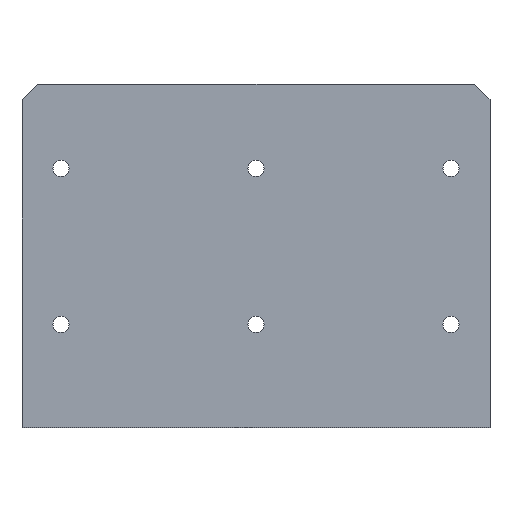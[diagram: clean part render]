
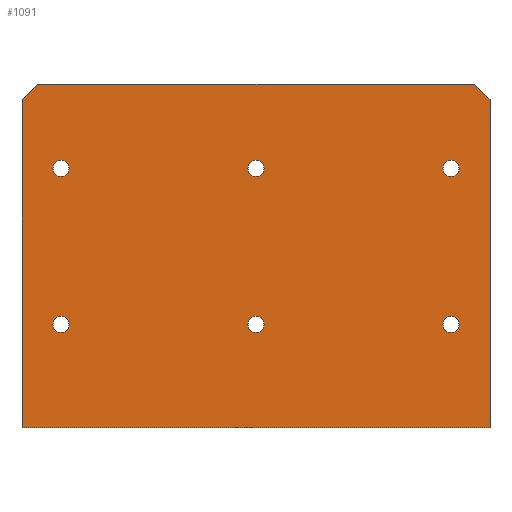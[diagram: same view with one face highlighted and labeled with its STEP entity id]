
A CAD part, top view. The second image highlights one B-rep face of the part: STEP entity #1091.
In plain terms, the highlighted planar face has unit normal (0, 0, 1).
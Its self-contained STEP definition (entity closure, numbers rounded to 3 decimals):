
#774=AXIS2_PLACEMENT_3D('Circle Axis2P3D',#772,#773,$) ;
#800=AXIS2_PLACEMENT_3D('Circle Axis2P3D',#798,#799,$) ;
#817=AXIS2_PLACEMENT_3D('Circle Axis2P3D',#815,#816,$) ;
#843=AXIS2_PLACEMENT_3D('Circle Axis2P3D',#841,#842,$) ;
#860=AXIS2_PLACEMENT_3D('Circle Axis2P3D',#858,#859,$) ;
#886=AXIS2_PLACEMENT_3D('Circle Axis2P3D',#884,#885,$) ;
#903=AXIS2_PLACEMENT_3D('Circle Axis2P3D',#901,#902,$) ;
#929=AXIS2_PLACEMENT_3D('Circle Axis2P3D',#927,#928,$) ;
#946=AXIS2_PLACEMENT_3D('Circle Axis2P3D',#944,#945,$) ;
#972=AXIS2_PLACEMENT_3D('Circle Axis2P3D',#970,#971,$) ;
#989=AXIS2_PLACEMENT_3D('Circle Axis2P3D',#987,#988,$) ;
#1015=AXIS2_PLACEMENT_3D('Circle Axis2P3D',#1013,#1014,$) ;
#1052=AXIS2_PLACEMENT_3D('Plane Axis2P3D',#1049,#1050,#1051) ;
#336=CARTESIAN_POINT('Vertex',(150.,-8.,8.)) ;
#339=CARTESIAN_POINT('Line Origine',(75.,-8.,8.)) ;
#343=CARTESIAN_POINT('Vertex',(0.,-8.,8.)) ;
#549=CARTESIAN_POINT('Vertex',(150.,97.,8.)) ;
#552=CARTESIAN_POINT('Line Origine',(150.,44.5,8.)) ;
#724=CARTESIAN_POINT('Line Origine',(147.5,99.5,8.)) ;
#728=CARTESIAN_POINT('Vertex',(145.,102.,8.)) ;
#748=CARTESIAN_POINT('Line Origine',(75.,102.,8.)) ;
#752=CARTESIAN_POINT('Vertex',(5.,102.,8.)) ;
#772=CARTESIAN_POINT('Axis2P3D Location',(12.5,75.,8.)) ;
#776=CARTESIAN_POINT('Vertex',(9.9,75.,8.)) ;
#778=CARTESIAN_POINT('Vertex',(15.1,75.,8.)) ;
#798=CARTESIAN_POINT('Axis2P3D Location',(12.5,75.,8.)) ;
#815=CARTESIAN_POINT('Axis2P3D Location',(137.5,75.,8.)) ;
#819=CARTESIAN_POINT('Vertex',(134.9,75.,8.)) ;
#821=CARTESIAN_POINT('Vertex',(140.1,75.,8.)) ;
#841=CARTESIAN_POINT('Axis2P3D Location',(137.5,75.,8.)) ;
#858=CARTESIAN_POINT('Axis2P3D Location',(75.,75.,8.)) ;
#862=CARTESIAN_POINT('Vertex',(72.4,75.,8.)) ;
#864=CARTESIAN_POINT('Vertex',(77.6,75.,8.)) ;
#884=CARTESIAN_POINT('Axis2P3D Location',(75.,75.,8.)) ;
#901=CARTESIAN_POINT('Axis2P3D Location',(12.5,25.,8.)) ;
#905=CARTESIAN_POINT('Vertex',(9.9,25.,8.)) ;
#907=CARTESIAN_POINT('Vertex',(15.1,25.,8.)) ;
#927=CARTESIAN_POINT('Axis2P3D Location',(12.5,25.,8.)) ;
#944=CARTESIAN_POINT('Axis2P3D Location',(137.5,25.,8.)) ;
#948=CARTESIAN_POINT('Vertex',(134.9,25.,8.)) ;
#950=CARTESIAN_POINT('Vertex',(140.1,25.,8.)) ;
#970=CARTESIAN_POINT('Axis2P3D Location',(137.5,25.,8.)) ;
#987=CARTESIAN_POINT('Axis2P3D Location',(75.,25.,8.)) ;
#991=CARTESIAN_POINT('Vertex',(72.4,25.,8.)) ;
#993=CARTESIAN_POINT('Vertex',(77.6,25.,8.)) ;
#1013=CARTESIAN_POINT('Axis2P3D Location',(75.,25.,8.)) ;
#1034=CARTESIAN_POINT('Vertex',(0.,97.,8.)) ;
#1037=CARTESIAN_POINT('Line Origine',(2.5,99.5,8.)) ;
#1049=CARTESIAN_POINT('Axis2P3D Location',(0.,-8.,8.)) ;
#1054=CARTESIAN_POINT('Line Origine',(0.,44.5,8.)) ;
#340=DIRECTION('Vector Direction',(1.,0.,0.)) ;
#553=DIRECTION('Vector Direction',(0.,1.,0.)) ;
#725=DIRECTION('Vector Direction',(0.707,-0.707,0.)) ;
#749=DIRECTION('Vector Direction',(1.,0.,0.)) ;
#773=DIRECTION('Axis2P3D Direction',(0.,0.,-1.)) ;
#799=DIRECTION('Axis2P3D Direction',(0.,0.,-1.)) ;
#816=DIRECTION('Axis2P3D Direction',(0.,0.,-1.)) ;
#842=DIRECTION('Axis2P3D Direction',(0.,0.,-1.)) ;
#859=DIRECTION('Axis2P3D Direction',(0.,0.,-1.)) ;
#885=DIRECTION('Axis2P3D Direction',(0.,0.,-1.)) ;
#902=DIRECTION('Axis2P3D Direction',(0.,0.,-1.)) ;
#928=DIRECTION('Axis2P3D Direction',(0.,0.,-1.)) ;
#945=DIRECTION('Axis2P3D Direction',(0.,0.,-1.)) ;
#971=DIRECTION('Axis2P3D Direction',(0.,0.,-1.)) ;
#988=DIRECTION('Axis2P3D Direction',(0.,0.,-1.)) ;
#1014=DIRECTION('Axis2P3D Direction',(0.,0.,-1.)) ;
#1038=DIRECTION('Vector Direction',(-0.707,-0.707,0.)) ;
#1050=DIRECTION('Axis2P3D Direction',(0.,0.,-1.)) ;
#1051=DIRECTION('Axis2P3D XDirection',(0.,1.,0.)) ;
#1055=DIRECTION('Vector Direction',(0.,1.,0.)) ;
#341=VECTOR('Line Direction',#340,1.) ;
#554=VECTOR('Line Direction',#553,1.) ;
#726=VECTOR('Line Direction',#725,1.) ;
#750=VECTOR('Line Direction',#749,1.) ;
#1039=VECTOR('Line Direction',#1038,1.) ;
#1056=VECTOR('Line Direction',#1055,1.) ;
#1060=ORIENTED_EDGE('',*,*,#1041,.F.) ;
#1061=ORIENTED_EDGE('',*,*,#1058,.F.) ;
#1062=ORIENTED_EDGE('',*,*,#345,.T.) ;
#1063=ORIENTED_EDGE('',*,*,#556,.T.) ;
#1064=ORIENTED_EDGE('',*,*,#730,.F.) ;
#1065=ORIENTED_EDGE('',*,*,#754,.F.) ;
#1068=ORIENTED_EDGE('',*,*,#995,.T.) ;
#1069=ORIENTED_EDGE('',*,*,#1017,.T.) ;
#1072=ORIENTED_EDGE('',*,*,#952,.T.) ;
#1073=ORIENTED_EDGE('',*,*,#974,.T.) ;
#1076=ORIENTED_EDGE('',*,*,#909,.T.) ;
#1077=ORIENTED_EDGE('',*,*,#931,.T.) ;
#1080=ORIENTED_EDGE('',*,*,#888,.T.) ;
#1081=ORIENTED_EDGE('',*,*,#866,.T.) ;
#1084=ORIENTED_EDGE('',*,*,#845,.T.) ;
#1085=ORIENTED_EDGE('',*,*,#823,.T.) ;
#1088=ORIENTED_EDGE('',*,*,#802,.T.) ;
#1089=ORIENTED_EDGE('',*,*,#780,.T.) ;
#1070=FACE_BOUND('',#1067,.T.) ;
#1074=FACE_BOUND('',#1071,.T.) ;
#1078=FACE_BOUND('',#1075,.T.) ;
#1082=FACE_BOUND('',#1079,.T.) ;
#1086=FACE_BOUND('',#1083,.T.) ;
#1090=FACE_BOUND('',#1087,.T.) ;
#1091=ADVANCED_FACE('\X2\96F64EF651E04F554F53\X0\',(#1066,#1070,#1074,#1078,#1082,#1086,#1090),#1053,.F.) ;
#775=CIRCLE('generated circle',#774,2.6) ;
#801=CIRCLE('generated circle',#800,2.6) ;
#818=CIRCLE('generated circle',#817,2.6) ;
#844=CIRCLE('generated circle',#843,2.6) ;
#861=CIRCLE('generated circle',#860,2.6) ;
#887=CIRCLE('generated circle',#886,2.6) ;
#904=CIRCLE('generated circle',#903,2.6) ;
#930=CIRCLE('generated circle',#929,2.6) ;
#947=CIRCLE('generated circle',#946,2.6) ;
#973=CIRCLE('generated circle',#972,2.6) ;
#990=CIRCLE('generated circle',#989,2.6) ;
#1016=CIRCLE('generated circle',#1015,2.6) ;
#345=EDGE_CURVE('',#344,#337,#342,.T.) ;
#556=EDGE_CURVE('',#337,#550,#555,.T.) ;
#730=EDGE_CURVE('',#729,#550,#727,.T.) ;
#754=EDGE_CURVE('',#753,#729,#751,.T.) ;
#780=EDGE_CURVE('',#777,#779,#775,.T.) ;
#802=EDGE_CURVE('',#779,#777,#801,.T.) ;
#823=EDGE_CURVE('',#820,#822,#818,.T.) ;
#845=EDGE_CURVE('',#822,#820,#844,.T.) ;
#866=EDGE_CURVE('',#863,#865,#861,.T.) ;
#888=EDGE_CURVE('',#865,#863,#887,.T.) ;
#909=EDGE_CURVE('',#906,#908,#904,.T.) ;
#931=EDGE_CURVE('',#908,#906,#930,.T.) ;
#952=EDGE_CURVE('',#949,#951,#947,.T.) ;
#974=EDGE_CURVE('',#951,#949,#973,.T.) ;
#995=EDGE_CURVE('',#992,#994,#990,.T.) ;
#1017=EDGE_CURVE('',#994,#992,#1016,.T.) ;
#1041=EDGE_CURVE('',#1035,#753,#1040,.F.) ;
#1058=EDGE_CURVE('',#344,#1035,#1057,.T.) ;
#1059=EDGE_LOOP('',(#1060,#1061,#1062,#1063,#1064,#1065)) ;
#1067=EDGE_LOOP('',(#1068,#1069)) ;
#1071=EDGE_LOOP('',(#1072,#1073)) ;
#1075=EDGE_LOOP('',(#1076,#1077)) ;
#1079=EDGE_LOOP('',(#1080,#1081)) ;
#1083=EDGE_LOOP('',(#1084,#1085)) ;
#1087=EDGE_LOOP('',(#1088,#1089)) ;
#1066=FACE_OUTER_BOUND('',#1059,.T.) ;
#342=LINE('Line',#339,#341) ;
#555=LINE('Line',#552,#554) ;
#727=LINE('Line',#724,#726) ;
#751=LINE('Line',#748,#750) ;
#1040=LINE('Line',#1037,#1039) ;
#1057=LINE('Line',#1054,#1056) ;
#1053=PLANE('',#1052) ;
#337=VERTEX_POINT('',#336) ;
#344=VERTEX_POINT('',#343) ;
#550=VERTEX_POINT('',#549) ;
#729=VERTEX_POINT('',#728) ;
#753=VERTEX_POINT('',#752) ;
#777=VERTEX_POINT('',#776) ;
#779=VERTEX_POINT('',#778) ;
#820=VERTEX_POINT('',#819) ;
#822=VERTEX_POINT('',#821) ;
#863=VERTEX_POINT('',#862) ;
#865=VERTEX_POINT('',#864) ;
#906=VERTEX_POINT('',#905) ;
#908=VERTEX_POINT('',#907) ;
#949=VERTEX_POINT('',#948) ;
#951=VERTEX_POINT('',#950) ;
#992=VERTEX_POINT('',#991) ;
#994=VERTEX_POINT('',#993) ;
#1035=VERTEX_POINT('',#1034) ;
